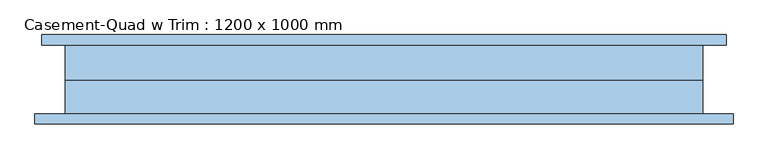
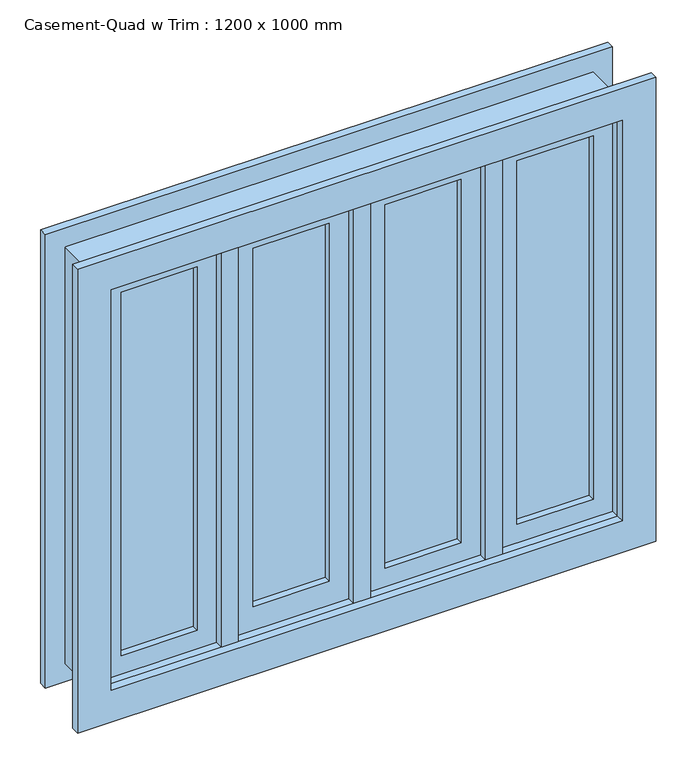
"""IFC4 building model written with IfcOpenShell, lengths in millimetres: window geometry, Casement-Quad w Trim : 1200 x 1000 mm."""

from ifc_helpers import new_model, si_unit, frame, origin, place, context, project, spatial, polyline, outline, extrude, source, transform, mapped, element, save


def casement_quad_w_trim_1200_x_1000_mm_793000f8(model_context):
    return source(origin(), model_context, "Body", "SweptSolid", [
        extrude(outline(polyline([(1958.85, 644.45), (1958.85, -644.45), (869.95, -644.45), (869.95, 644.45), (1958.85, 644.45)]), holes=[polyline([(1882.65, -568.25), (1882.65, 568.25), (946.15, 568.25), (946.15, -568.25), (1882.65, -568.25)])]), frame((0.0, 45.95, 0.0), z_axis=(0.0, 1.0, 0.0), x_axis=(0.0, 0.0, 1.0)), (0.0, 0.0, 1.0), 19.05),
        extrude(outline(polyline([(1971.55, -657.15), (857.25, -657.15), (857.25, 657.15), (1971.55, 657.15), (1971.55, -657.15)]), holes=[polyline([(1895.35, 580.95), (933.45, 580.95), (933.45, -580.95), (1895.35, -580.95), (1895.35, 580.95)])]), frame((0.0, -103.1, 0.0), z_axis=(0.0, 1.0, 0.0), x_axis=(0.0, 0.0, 1.0)), (0.0, 0.0, 1.0), 19.05),
        extrude(outline(polyline([(63.5, -49.125), (63.5, -36.425), (236.5, -36.425), (236.5, -49.125), (63.5, -49.125)])), frame((0.0, 0.0, 977.9), z_axis=(0.0, 0.0, 1.0), x_axis=(1.0, 0.0, 0.0)), (0.0, 0.0, 1.0), 873.0),
        extrude(outline(polyline([(-236.5, -49.125), (-236.5, -36.425), (-63.5, -36.425), (-63.5, -49.125), (-236.5, -49.125)])), frame((0.0, 0.0, 990.6), z_axis=(0.0, 0.0, 1.0), x_axis=(1.0, 0.0, 0.0)), (0.0, 0.0, 1.0), 860.3),
        extrude(outline(polyline([(1895.35, 19.05), (933.45, 19.05), (933.45, 280.95), (1895.35, 280.95), (1895.35, 19.05)]), holes=[polyline([(1850.9, 63.5), (1850.9, 236.5), (977.9, 236.5), (977.9, 63.5), (1850.9, 63.5)])]), frame((0.0, -65.0, 0.0), z_axis=(0.0, 1.0, 0.0), x_axis=(0.0, 0.0, 1.0)), (0.0, 0.0, 1.0), 44.45),
        extrude(outline(polyline([(1895.35, -280.95), (933.45, -280.95), (933.45, -19.05), (1895.35, -19.05), (1895.35, -280.95)]), holes=[polyline([(1850.9, -236.5), (1850.9, -63.5), (990.6, -63.5), (990.6, -236.5), (1850.9, -236.5)])]), frame((0.0, -65.0, 0.0), z_axis=(0.0, 1.0, 0.0), x_axis=(0.0, 0.0, 1.0)), (0.0, 0.0, 1.0), 44.45),
        extrude(outline(polyline([(363.5, -49.125), (363.5, -36.425), (536.5, -36.425), (536.5, -49.125), (363.5, -49.125)])), frame((0.0, 0.0, 977.9), z_axis=(0.0, 0.0, 1.0), x_axis=(1.0, 0.0, 0.0)), (0.0, 0.0, 1.0), 873.0),
        extrude(outline(polyline([(1895.35, 319.05), (933.45, 319.05), (933.45, 580.95), (1895.35, 580.95), (1895.35, 319.05)]), holes=[polyline([(1850.9, 363.5), (1850.9, 536.5), (977.9, 536.5), (977.9, 363.5), (1850.9, 363.5)])]), frame((0.0, -65.0, 0.0), z_axis=(0.0, 1.0, 0.0), x_axis=(0.0, 0.0, 1.0)), (0.0, 0.0, 1.0), 44.45),
        extrude(outline(polyline([(-280.95, -20.55), (-280.95, -84.05), (-319.05, -84.05), (-319.05, -20.55), (-280.95, -20.55)])), frame((0.0, 0.0, 933.45), z_axis=(0.0, 0.0, 1.0), x_axis=(1.0, 0.0, 0.0)), (0.0, 0.0, 1.0), 961.9),
        extrude(outline(polyline([(319.05, -20.55), (319.05, -84.05), (280.95, -84.05), (280.95, -20.55), (319.05, -20.55)])), frame((0.0, 0.0, 933.45), z_axis=(0.0, 0.0, 1.0), x_axis=(1.0, 0.0, 0.0)), (0.0, 0.0, 1.0), 961.9),
        extrude(outline(polyline([(19.05, -20.55), (19.05, -84.05), (-19.05, -84.05), (-19.05, -20.55), (19.05, -20.55)])), frame((0.0, 0.0, 933.45), z_axis=(0.0, 0.0, 1.0), x_axis=(1.0, 0.0, 0.0)), (0.0, 0.0, 1.0), 961.9),
        extrude(outline(polyline([(-363.5, -36.425), (-363.5, -49.125), (-536.5, -49.125), (-536.5, -36.425), (-363.5, -36.425)])), frame((0.0, 0.0, 977.9), z_axis=(0.0, 0.0, 1.0), x_axis=(1.0, 0.0, 0.0)), (0.0, 0.0, 1.0), 873.0),
        extrude(outline(polyline([(1895.35, -580.95), (933.45, -580.95), (933.45, -319.05), (1895.35, -319.05), (1895.35, -580.95)]), holes=[polyline([(1850.9, -536.5), (1850.9, -363.5), (977.9, -363.5), (977.9, -536.5), (1850.9, -536.5)])]), frame((0.0, -65.0, 0.0), z_axis=(0.0, 1.0, 0.0), x_axis=(0.0, 0.0, 1.0)), (0.0, 0.0, 1.0), 44.45),
        extrude(outline(polyline([(1914.4, -600.0), (914.4, -600.0), (914.4, 600.0), (1914.4, 600.0), (1914.4, -600.0)]), holes=[polyline([(1882.65, -568.25), (1882.65, 568.25), (946.15, 568.25), (946.15, -568.25), (1882.65, -568.25)])]), frame((0.0, -20.55, 0.0), z_axis=(0.0, 1.0, 0.0), x_axis=(0.0, 0.0, 1.0)), (0.0, 0.0, 1.0), 66.5),
        extrude(outline(polyline([(1914.4, 600.0), (1914.4, -600.0), (914.4, -600.0), (914.4, 600.0), (1914.4, 600.0)]), holes=[polyline([(1895.35, 580.95), (933.45, 580.95), (933.45, -580.95), (1895.35, -580.95), (1895.35, 580.95)])]), frame((0.0, -84.05, 0.0), z_axis=(0.0, 1.0, 0.0), x_axis=(0.0, 0.0, 1.0)), (0.0, 0.0, 1.0), 63.5),
    ])


if __name__ == "__main__":
    model = new_model("IFC4")
    model_context = context("Model", 3, world=origin())
    ifc_project = project(units=[si_unit("LENGTHUNIT", "METRE", prefix="MILLI")], contexts=[model_context])
    site = spatial("IfcSite", under=ifc_project)
    building = spatial("IfcBuilding", under=site)
    placement = place(None, origin())
    casement_quad_w_trim_1200_x_1000_mm_shape = casement_quad_w_trim_1200_x_1000_mm_793000f8(model_context)
    element("IfcWindow", 1, ObjectType="Casement-Quad w Trim : 1200 x 1000 mm", at=placement, inside=building, context=model_context, shape_type="MappedRepresentation", body=[
        mapped(casement_quad_w_trim_1200_x_1000_mm_shape, transform((0.0, 0.0, 0.0), x_axis=(1.0, 0.0, 0.0), y_axis=(0.0, 1.0, 0.0), z_axis=(0.0, 0.0, 1.0))),
    ])
    save(model, "model.ifc")
